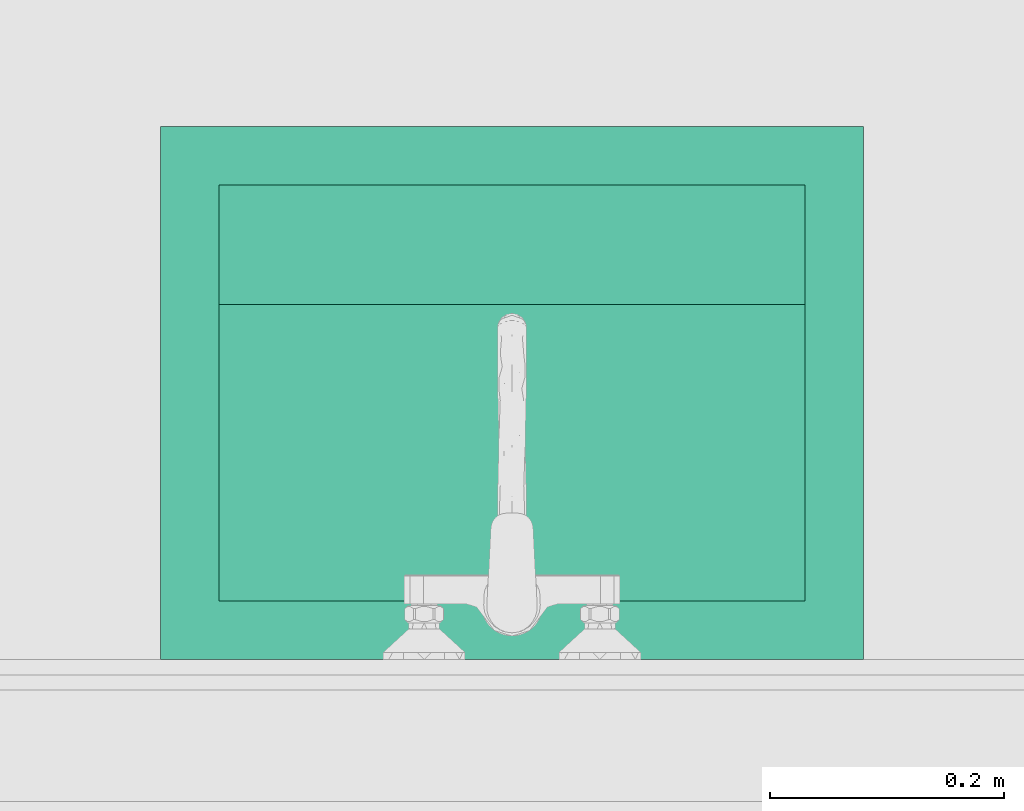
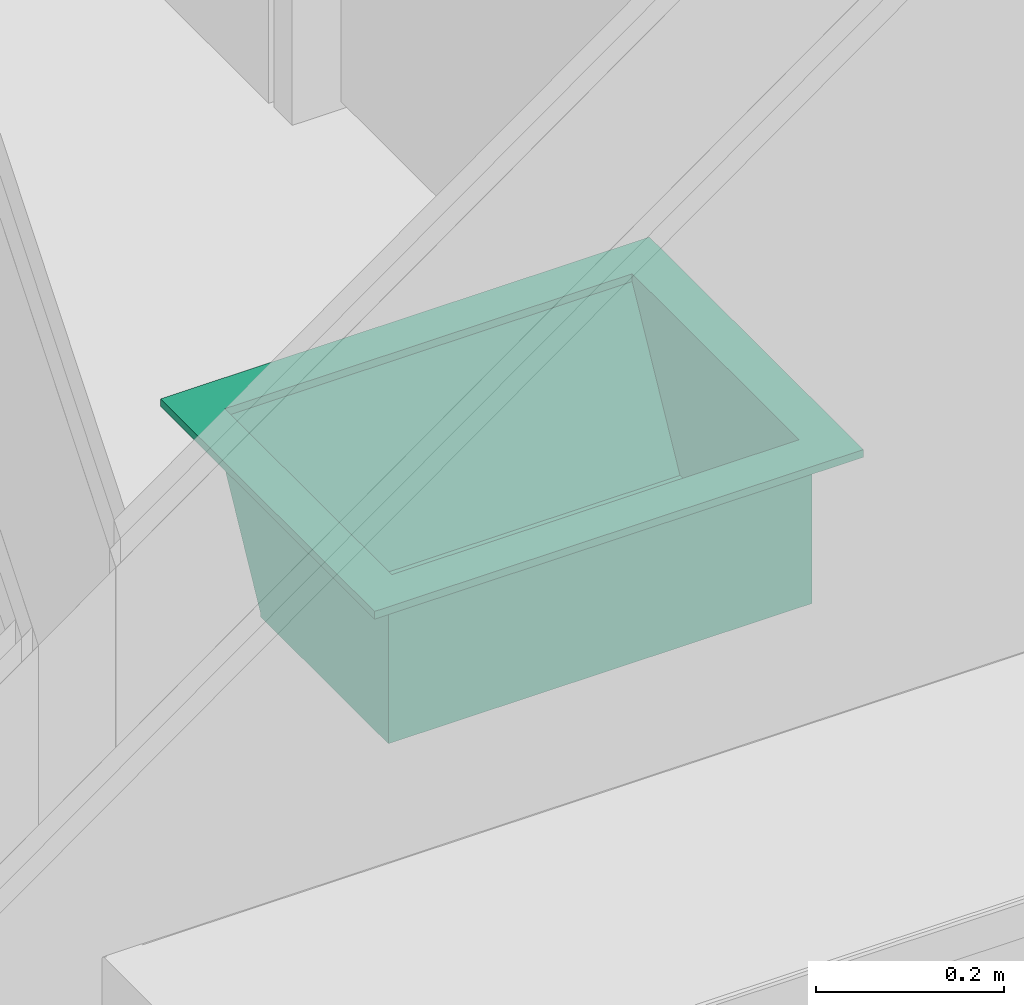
# One storey, part 31 of 67: 1 flow terminal.
"""IFC4 building model written with IfcOpenShell, lengths in millimetres."""

from ifc_helpers import new_model, entity, si_unit, converted_unit, direction, frame, origin, place, context, subcontext, project, spatial, indexed_curve, outline, extrude, source, transform, mapped, material, type_object, type_shapes, element, save


model = new_model("IFC4")

# Units and contexts
model_context = context("Model", 3, precision=0.01, world=origin(), true_north=direction((0.0, 1.0)))
body_context = subcontext(model_context, "Body", "Model", "MODEL_VIEW")
ifc_project = project(units=[si_unit("LENGTHUNIT", "METRE", prefix="MILLI"), si_unit("AREAUNIT", "SQUARE_METRE"), si_unit("VOLUMEUNIT", "CUBIC_METRE"), converted_unit("PLANEANGLEUNIT", "DEGREE", entity("IfcPlaneAngleMeasure", 0.017453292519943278), si_unit("PLANEANGLEUNIT", "RADIAN"), dimensions=[0, 0, 0, 0, 0, 0, 0])], contexts=[model_context])

# Site, building, storey, space
site_placement = place(None, origin())
site = spatial("IfcSite", under=ifc_project, at=site_placement, Name="Tomtens navn", CompositionType="ELEMENT")
building_placement = place(site_placement, origin())
building = spatial("IfcBuilding", under=site, at=building_placement, Name="Byggets navn", CompositionType="ELEMENT")
storey_placement = place(building_placement, origin())
storey = spatial("IfcBuildingStorey", under=building, at=storey_placement, Name="Level 01", CompositionType="ELEMENT", Elevation=2.1993652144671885e-25)
space_placement = place(storey_placement, origin())
space = spatial("IfcSpace", under=storey, at=space_placement, Name="121", CompositionType="ELEMENT", PredefinedType="NOTDEFINED")

# Flow terminal
ifc_material = material(Name="Metal - Aluminium", Category="Unassigned")
distribution_element_type = type_object("IfcDistributionElementType", Name="Sink_03:Middels", material=ifc_material)
shared_shape = source(origin(), body_context, "Body", "SweptSolid", [
    extrude(outline(indexed_curve([(-227.50000000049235, -300.0), (227.50000000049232, -300.0), (227.50000000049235, 300.0), (-227.50000000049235, 300.0), (-227.50000000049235, -300.0)], self_intersect=False), holes=[indexed_curve([(-177.50000000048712, -249.99999999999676), (-177.50000000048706, 250.00000000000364), (177.50000000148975, 250.00000000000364), (177.5000000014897, -249.99999999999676), (-177.50000000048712, -249.99999999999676)], self_intersect=False)]), frame((94.41156576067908, 97.42530613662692, 890.0), z_axis=(0.0, 0.0, 1.0), x_axis=(0.0, -1.0, 0.0)), (0.0, 0.0, 1.0), 10.000000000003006),
    extrude(outline(indexed_curve([(-250.00000000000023, -4.999999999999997), (250.00000000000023, -4.999999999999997), (250.00000000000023, 4.999999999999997), (-250.00000000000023, 4.999999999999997), (-250.00000000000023, -4.999999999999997)], self_intersect=False)), frame((94.411565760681, -85.07469386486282, 700.0), z_axis=(0.0, 0.0, 1.0), x_axis=(-1.0, 0.0, 0.0)), (0.0, 0.0, 1.0), 190.0000000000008),
    extrude(outline(indexed_curve([(-207.91666666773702, -94.99999999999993), (157.08333333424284, -94.99999999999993), (157.08333333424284, 95.00000000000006), (-106.25000000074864, 95.00000000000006), (-207.91666666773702, -94.99999999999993)], self_intersect=False)), frame((344.41156576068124, 67.00863946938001, 795.0), z_axis=(1.0, 0.0, 0.0), x_axis=(0.0, -1.0, 0.0)), (0.0, 0.0, 1.0), 9.999999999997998),
    extrude(outline(indexed_curve([(-207.916666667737, -94.99999999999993), (157.08333333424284, -94.99999999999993), (157.08333333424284, 95.00000000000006), (-106.25000000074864, 95.00000000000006), (-207.916666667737, -94.99999999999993)], self_intersect=False)), frame((-165.5884342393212, 67.00863946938, 795.0), z_axis=(1.0, 0.0, 0.0), x_axis=(0.0, -1.0, 0.0)), (0.0, 0.0, 1.0), 10.000000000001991),
    extrude(outline(indexed_curve([(-5.000000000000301, -107.74519839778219), (4.999999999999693, -107.74519839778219), (5.0000000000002, 107.74519839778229), (-4.999999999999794, 107.74519839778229), (-5.000000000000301, -107.74519839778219)], self_intersect=False)), frame((-165.5884342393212, 228.5005219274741, 792.6410395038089), z_axis=(1.0, 0.0, 0.0), x_axis=(0.0, -0.8817098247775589, 0.4717920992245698)), (0.0, 0.0, 1.0), 520.0000000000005),
    extrude(outline(indexed_curve([(-136.07521579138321, -260.0000000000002), (136.07521579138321, -260.0000000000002), (136.07521579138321, 260.0000000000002), (-136.07521579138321, 260.0000000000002), (-136.07521579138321, -260.0000000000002)], self_intersect=False)), frame((94.41156576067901, 46.00052192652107, 690.0), z_axis=(0.0, 0.0, 1.0), x_axis=(0.0, 1.0, 0.0)), (0.0, 0.0, 1.0), 10.000000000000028),
])
type_shapes(distribution_element_type, [shared_shape])
flow_terminal_placement = place(space_placement, frame((61190.56696234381, 20331.54115079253, -190.0)))
element("IfcFlowTerminal", 1, at=flow_terminal_placement, inside=space, type_object=distribution_element_type, material=ifc_material, Name="Sink_03:Middels", context=body_context, shape_type="MappedRepresentation", body=[
    mapped(shared_shape, transform((0.0, 0.0, 0.0), scale=1.0)),
])

save(model, "model.ifc")
